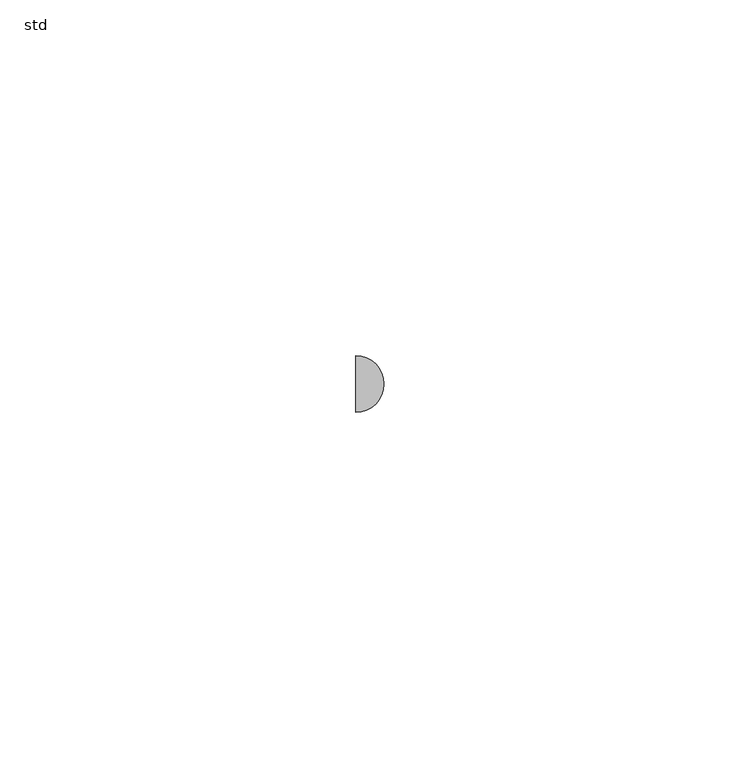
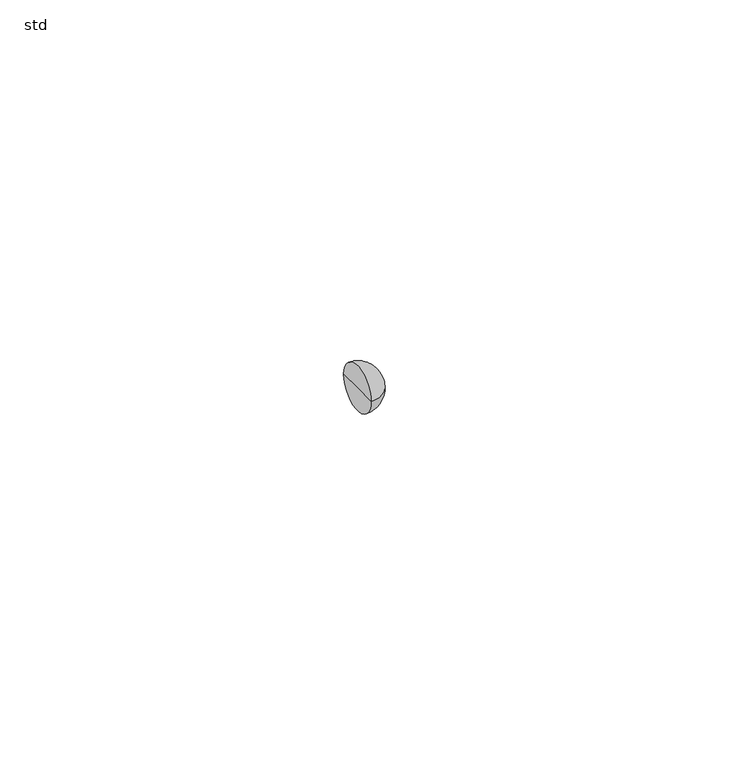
"""IFC4 building model written with IfcOpenShell, lengths in millimetres: pipe fitting geometry, PIF_ST_UN_GM-X multireducer_ACO : std."""

import ifcopenshell
import ifcopenshell.guid

model = None  # the IFC model being written
_history = None  # IfcOwnerHistory: only IFC2X3 demands one
_inside = {}  # id of a spatial element -> (the spatial element, [elements in it])
_under = {}  # id of a project, library or spatial element -> (it, [spatial elements below it])
_declared = {}  # id of a project -> (the project, [libraries it declares])
_typed = {}  # id of a type object -> (the type object, [elements of that type])
_made_of = {}  # id of a material, layer set ... -> (it, [elements and type objects made of it])


def new_model(schema):
    """Start an empty IFC model of exactly this schema.

    Asked for "IFC4X3", IfcOpenShell would pick the latest addendum, in which some entities
    have other attributes; the version numbers below select the first issue.
    IFC2X3 requires an IfcOwnerHistory on every rooted entity: one is made here for all.
    """
    global model, _history
    if schema == "IFC4X3":
        model = ifcopenshell.file(schema_version=(4, 3, 0, 0))
    else:
        model = ifcopenshell.file(schema=schema)
    _inside.clear()
    _under.clear()
    _declared.clear()
    _typed.clear()
    _made_of.clear()
    _history = None
    if model.schema == "IFC2X3":
        org = make("IfcOrganization", Name="unknown")
        user = make(
            "IfcPersonAndOrganization",
            ThePerson=make("IfcPerson", FamilyName="unknown"),
            TheOrganization=org,
        )
        app = make(
            "IfcApplication",
            ApplicationDeveloper=org,
            Version="unknown",
            ApplicationFullName="unknown",
            ApplicationIdentifier="unknown",
        )
        _history = make(
            "IfcOwnerHistory",
            OwningUser=user,
            OwningApplication=app,
            ChangeAction="ADDED",
            CreationDate=0,
        )
    return model


def make(cls, **values):
    """One entity of the class cls with the attributes given. An attribute that is None is left unset."""
    return model.create_entity(
        cls, **{name: value for name, value in values.items() if value is not None}
    )


def rooted(cls, **values):
    """An entity with a GlobalId (a new one), such as an element, a storey or a relation."""
    return make(cls, GlobalId=ifcopenshell.guid.new(), OwnerHistory=_history, **values)


def si_unit(unit_type, name, prefix=None):
    """IfcSIUnit, for example si_unit("LENGTHUNIT", "METRE", prefix="MILLI")."""
    return make("IfcSIUnit", UnitType=unit_type, Prefix=prefix, Name=name)


def assignment(units):
    """IfcUnitAssignment: the units of a project."""
    return None if units is None else make("IfcUnitAssignment", Units=units)


def point(xyz):
    """IfcCartesianPoint."""
    return None if xyz is None else make("IfcCartesianPoint", Coordinates=xyz)


def direction(xyz):
    """IfcDirection."""
    return None if xyz is None else make("IfcDirection", DirectionRatios=xyz)


def frame(location, z_axis=None, x_axis=None):
    """IfcAxis2Placement3D, a coordinate frame: its origin and axes. An axis left out is left unset."""
    return make(
        "IfcAxis2Placement3D",
        Location=point(location),
        Axis=direction(z_axis),
        RefDirection=direction(x_axis),
    )


def origin():
    """The frame at (0, 0, 0) with its axes left unset."""
    return frame((0.0, 0.0, 0.0))


def place(relative_to, where):
    """IfcLocalPlacement: puts the frame where relative to a parent placement (None: the world)."""
    return make(
        "IfcLocalPlacement", PlacementRelTo=relative_to, RelativePlacement=where
    )


def context(
    kind, dimensions, precision=None, world=None, true_north=None, identifier=None
):
    """IfcGeometricRepresentationContext, for example the 3D "Model" context."""
    return make(
        "IfcGeometricRepresentationContext",
        ContextIdentifier=identifier,
        ContextType=kind,
        CoordinateSpaceDimension=dimensions,
        Precision=precision,
        WorldCoordinateSystem=world,
        TrueNorth=true_north,
    )


def project(units=None, contexts=None):
    """IfcProject with its units and contexts."""
    return rooted(
        "IfcProject",
        Name="project",
        RepresentationContexts=contexts,
        UnitsInContext=assignment(units),
    )


def spatial(cls, under=None, at=None, **own):
    """A site, building, storey or space (cls), placed at a placement, below another one or the project."""
    s = rooted(cls, ObjectPlacement=at, **own)
    if under is not None:
        _under.setdefault(under.id(), (under, []))[1].append(s)
    return s


def circle_curve(where, radius):
    """IfcCircle in the frame where."""
    return make("IfcCircle", Position=where, Radius=radius)


def ellipse_curve(where, semi_axis1, semi_axis2):
    """IfcEllipse in the frame where."""
    return make(
        "IfcEllipse", Position=where, SemiAxis1=semi_axis1, SemiAxis2=semi_axis2
    )


def trimmed(basis, trim1, trim2, sense, master):
    """IfcTrimmedCurve: the piece of a basis curve between two trims."""
    return make(
        "IfcTrimmedCurve",
        BasisCurve=basis,
        Trim1=trim1,
        Trim2=trim2,
        SenseAgreement=sense,
        MasterRepresentation=master,
    )


def shape(context_of_items, identifier, shape_type, items):
    """IfcShapeRepresentation: the items that make up one representation, for example the "Body"."""
    return make(
        "IfcShapeRepresentation",
        ContextOfItems=context_of_items,
        RepresentationIdentifier=identifier,
        RepresentationType=shape_type,
        Items=items,
    )


def source(mapping_origin, context_of_items, identifier, shape_type, items):
    """IfcRepresentationMap: a shape defined once, which mapped items show again and again."""
    return make(
        "IfcRepresentationMap",
        MappingOrigin=mapping_origin,
        MappedRepresentation=shape(context_of_items, identifier, shape_type, items),
    )


def transform(
    local_origin,
    x_axis=None,
    y_axis=None,
    z_axis=None,
    scale=None,
    scale2=None,
    scale3=None,
    uniform=True,
):
    """IfcCartesianTransformationOperator3D, or its non-uniform kind. x_axis, y_axis, z_axis: its Axis1, 2, 3."""
    if uniform:
        return make(
            "IfcCartesianTransformationOperator3D",
            Axis1=direction(x_axis),
            Axis2=direction(y_axis),
            LocalOrigin=point(local_origin),
            Scale=scale,
            Axis3=direction(z_axis),
        )
    return make(
        "IfcCartesianTransformationOperator3DnonUniform",
        Axis1=direction(x_axis),
        Axis2=direction(y_axis),
        LocalOrigin=point(local_origin),
        Scale=scale,
        Axis3=direction(z_axis),
        Scale2=scale2,
        Scale3=scale3,
    )


def mapped(mapping_source, mapping_target):
    """IfcMappedItem: shows the shape of a source again, moved by a transform."""
    return make(
        "IfcMappedItem", MappingSource=mapping_source, MappingTarget=mapping_target
    )


def made_of(thing, what):
    """Note that an element or type object is made of a material, layer set ...; save() writes the relation."""
    if what is not None:
        _made_of.setdefault(what.id(), (what, []))[1].append(thing)
    return thing


def element(
    cls,
    number,
    at=None,
    inside=None,
    cuts=None,
    type_object=None,
    material=None,
    context=None,
    identifier="Body",
    shape_type=None,
    held_by="IfcProductDefinitionShape",
    body=None,
    shapes=None,
    **own,
):
    """One element of the class cls, such as IfcWall. Its Tag is "e" and its number.

    at: its placement. inside: the storey or other place that contains it. cuts: it is an
    opening in that element (IfcRelVoidsElement). A single representation is given by context,
    identifier, shape_type and body (its items); several are given by shapes. held_by: the class
    of the entity that holds the representations. save() writes the other relations.
    """
    e = rooted(cls, Tag="e%d" % number, ObjectPlacement=at, **own)
    if body is not None:
        shapes = [shape(context, identifier, shape_type, body)]
    if shapes is not None:
        e.Representation = make(held_by, Representations=shapes)
    if inside is not None:
        _inside.setdefault(inside.id(), (inside, []))[1].append(e)
    if cuts is not None:
        rooted(
            "IfcRelVoidsElement", RelatingBuildingElement=cuts, RelatedOpeningElement=e
        )
    if type_object is not None:
        _typed.setdefault(type_object.id(), (type_object, []))[1].append(e)
    return made_of(e, material)


def aggregate(whole, parts):
    """IfcRelAggregates: a whole, such as a stair, and the parts it consists of."""
    return rooted("IfcRelAggregates", RelatingObject=whole, RelatedObjects=parts)


def save(model, path):
    """Write the relations noted so far, then the file.

    IfcRelAggregates (storeys below a building ...), IfcRelContainedInSpatialStructure (elements
    in a storey), IfcRelDefinesByType, IfcRelAssociatesMaterial and IfcRelDeclares: one each for
    every whole, place, type object, material and project.
    """
    for whole, parts in _under.values():
        aggregate(whole, parts)
    for where, things in _inside.values():
        rooted(
            "IfcRelContainedInSpatialStructure",
            RelatedElements=things,
            RelatingStructure=where,
        )
    for kind, things in _typed.values():
        rooted("IfcRelDefinesByType", RelatedObjects=things, RelatingType=kind)
    for what, things in _made_of.values():
        rooted("IfcRelAssociatesMaterial", RelatedObjects=things, RelatingMaterial=what)
    for by, libraries in _declared.values():
        rooted("IfcRelDeclares", RelatingContext=by, RelatedDefinitions=libraries)
    model.write(path)


def plane_surface(at):
    """IfcPlane: the flat surface through the origin of the frame at, square to its z axis."""
    return make("IfcPlane", Position=at)


def revolved_surface(curve, axis_point, axis_direction):
    """IfcSurfaceOfRevolution: the curve turned about the line through axis_point along axis_direction."""
    return make(
        "IfcSurfaceOfRevolution",
        SweptCurve=make("IfcArbitraryOpenProfileDef", ProfileType="CURVE", Curve=curve),
        AxisPosition=make("IfcAxis1Placement", Location=point(axis_point), Axis=direction(axis_direction)),
    )


def advanced_brep(points, edges, surfaces, faces):
    """IfcAdvancedBrep: a solid bounded by faces that lie on surfaces and meet in shared edges.

    An edge is (start, end): straight between two places in points (the first is 0);
    or (start, end, curve); or (start, end, curve, False) where it runs against its curve.
    A face is (place in surfaces, loops), or (place, loops, False) where it looks against
    its surface's normal. A loop lists edges by number (the first is 1), with a minus sign
    where the edge is run from its end to its start. The first loop is the outer one.
    """
    corners = [point(p) for p in points]
    vertices = [make("IfcVertexPoint", VertexGeometry=c) for c in corners]
    made = []
    for start, end, *more in edges:
        made.append(
            make(
                "IfcEdgeCurve",
                EdgeStart=vertices[start],
                EdgeEnd=vertices[end],
                EdgeGeometry=more[0] if more else make("IfcPolyline", Points=[corners[start], corners[end]]),
                SameSense=more[1] if len(more) > 1 else True,
            )
        )
    hull = []
    for where, loops, *sense in faces:
        bounds = []
        for j, loop in enumerate(loops):
            ring = [make("IfcOrientedEdge", EdgeElement=made[abs(k) - 1], Orientation=k > 0) for k in loop]
            bounds.append(
                make(
                    "IfcFaceOuterBound" if j == 0 else "IfcFaceBound",
                    Bound=make("IfcEdgeLoop", EdgeList=ring),
                    Orientation=True,
                )
            )
        hull.append(make("IfcAdvancedFace", Bounds=bounds, FaceSurface=surfaces[where], SameSense=sense[0] if sense else True))
    return make("IfcAdvancedBrep", Outer=make("IfcClosedShell", CfsFaces=hull))


def std_3df9fb00(model_context):
    return source(origin(), model_context, "Body", "AdvancedBrep", [
        advanced_brep(
        [(-137.5, 0.0, 0.0), (-137.5, 4.0, 0.0), (-137.5, -4.0, 0.0), (-133.5, 0.0, 0.0)],
        [
            (0, 1),
            (1, 2, circle_curve(frame((-137.5, 0.0, 0.0), z_axis=(-1.0, 0.0, 0.0), x_axis=(0.0, 1.0, 0.0)), 4.0)),
            (2, 0),
            (2, 1, circle_curve(frame((-137.5, 0.0, 0.0), z_axis=(-1.0, 0.0, 0.0), x_axis=(0.0, 1.0, 0.0)), 4.0)),
            (1, 3, circle_curve(frame((-137.5, 0.0, 0.0), z_axis=(0.0, 0.0, -1.0), x_axis=(1.0, 0.0, 0.0)), 4.0)),
            (3, 2, circle_curve(frame((-137.5, 0.0, 0.0), z_axis=(0.0, 0.0, -1.0), x_axis=(1.0, 0.0, 0.0)), 4.0)),
        ],
        [
            plane_surface(frame((-137.5, 0.0, 0.0), z_axis=(-1.0, 0.0, 0.0), x_axis=(0.0, 1.0, 0.0))),
            revolved_surface(trimmed(ellipse_curve(frame((-137.5, 0.0, 0.0), z_axis=(0.0, 0.0, 1.0), x_axis=(1.0, 0.0, 0.0)), 4.0, 4.0), [point((-133.5, 0.0, 0.0))], [point((-137.5, 4.0, 0.0))], True, "CARTESIAN"), (-151.1508039, 0.0, 0.0), (-1.0, 0.0, 0.0)),
        ],
        [
            (0, [[1, 2, 3]]),
            (0, [[-3, 4, -1]]),
            (1, [[-2, 5, 6]]),
            (1, [[-4, -6, -5]]),
        ],
    ),
    ])


if __name__ == "__main__":
    model = new_model("IFC4")
    model_context = context("Model", 3, world=origin())
    ifc_project = project(units=[si_unit("LENGTHUNIT", "METRE", prefix="MILLI")], contexts=[model_context])
    site = spatial("IfcSite", under=ifc_project)
    building = spatial("IfcBuilding", under=site)
    placement = place(None, origin())
    std_shape = std_3df9fb00(model_context)
    element("IfcPipeFitting", 1, ObjectType="PIF_ST_UN_GM-X multireducer_ACO : std", at=placement, inside=building, context=model_context, shape_type="MappedRepresentation", body=[
        mapped(std_shape, transform((0.0, 0.0, 0.0), x_axis=(1.0, 0.0, 0.0), y_axis=(0.0, 1.0, 0.0), z_axis=(0.0, 0.0, 1.0))),
    ])
    save(model, "model.ifc")
